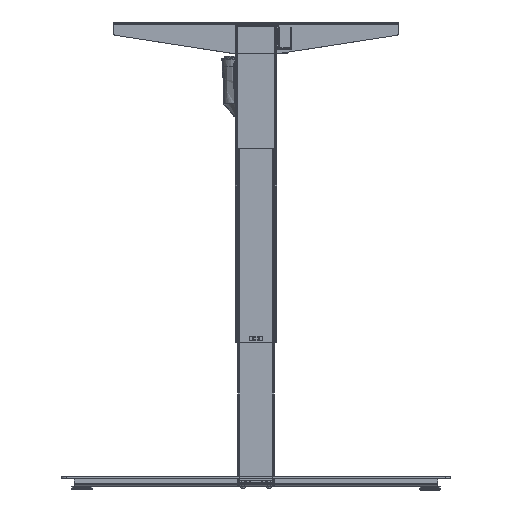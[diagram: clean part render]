
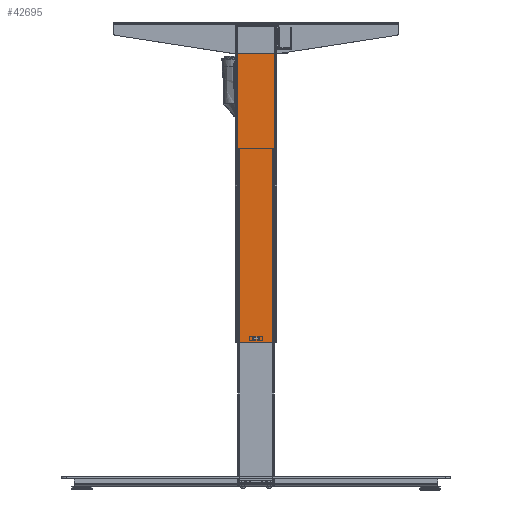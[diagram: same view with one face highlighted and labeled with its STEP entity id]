
A CAD part, left-side view. The second image highlights one B-rep face of the part: STEP entity #42695.
In plain terms, the highlighted planar face has unit normal (-1, 0, 0).
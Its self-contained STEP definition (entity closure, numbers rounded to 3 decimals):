
#937 = CARTESIAN_POINT ( 'NONE',  ( -29.5, 39.5, 609. ) ) ;
#1430 = DIRECTION ( 'NONE',  ( 0., 0., -1. ) ) ;
#1640 = CARTESIAN_POINT ( 'NONE',  ( -29.5, -6., 6. ) ) ;
#3889 = LINE ( 'NONE', #94096, #40638 ) ;
#4625 = VECTOR ( 'NONE', #77889, 1000. ) ;
#7718 = VECTOR ( 'NONE', #81805, 1000. ) ;
#10520 = ORIENTED_EDGE ( 'NONE', *, *, #52979, .T. ) ;
#12516 = LINE ( 'NONE', #91631, #58012 ) ;
#14407 = CARTESIAN_POINT ( 'NONE',  ( -29.5, 6., 6. ) ) ;
#17279 = ORIENTED_EDGE ( 'NONE', *, *, #105073, .F. ) ;
#22148 = DIRECTION ( 'NONE',  ( 1., 0., 0. ) ) ;
#23715 = DIRECTION ( 'NONE',  ( 0., -1., 0. ) ) ;
#24324 = DIRECTION ( 'NONE',  ( 0., 1., 0. ) ) ;
#24551 = EDGE_LOOP ( 'NONE', ( #140598, #17279, #121235, #96193 ) ) ;
#27216 = LINE ( 'NONE', #138922, #67656 ) ;
#27224 = VERTEX_POINT ( 'NONE', #40262 ) ;
#27468 = EDGE_LOOP ( 'NONE', ( #33400, #116664, #10520, #41136 ) ) ;
#33253 = FACE_OUTER_BOUND ( 'NONE', #24551, .T. ) ;
#33400 = ORIENTED_EDGE ( 'NONE', *, *, #107386, .T. ) ;
#34725 = VERTEX_POINT ( 'NONE', #56581 ) ;
#38834 = DIRECTION ( 'NONE',  ( 0., 0., 1. ) ) ;
#40262 = CARTESIAN_POINT ( 'NONE',  ( -29.5, 36.5, 0. ) ) ;
#40638 = VECTOR ( 'NONE', #128884, 1000. ) ;
#41136 = ORIENTED_EDGE ( 'NONE', *, *, #137711, .T. ) ;
#42695 = ADVANCED_FACE ( 'NONE', ( #45808, #33253 ), #46525, .F. ) ;
#45012 = EDGE_CURVE ( 'NONE', #58285, #34725, #45140, .T. ) ;
#45140 = LINE ( 'NONE', #48033, #133646 ) ;
#45808 = FACE_BOUND ( 'NONE', #27468, .T. ) ;
#46525 = PLANE ( 'NONE',  #97726 ) ;
#47499 = EDGE_CURVE ( 'NONE', #27224, #34725, #12516, .T. ) ;
#47757 = LINE ( 'NONE', #105404, #125200 ) ;
#47828 = LINE ( 'NONE', #57458, #7718 ) ;
#48033 = CARTESIAN_POINT ( 'NONE',  ( -29.5, -36.5, 614. ) ) ;
#52979 = EDGE_CURVE ( 'NONE', #115444, #76541, #3889, .T. ) ;
#53411 = EDGE_CURVE ( 'NONE', #102645, #115444, #94666, .T. ) ;
#56442 = LINE ( 'NONE', #937, #4625 ) ;
#56581 = CARTESIAN_POINT ( 'NONE',  ( -29.5, -36.5, 0. ) ) ;
#57458 = CARTESIAN_POINT ( 'NONE',  ( -29.5, 36.5, 614. ) ) ;
#58012 = VECTOR ( 'NONE', #78354, 1000. ) ;
#58285 = VERTEX_POINT ( 'NONE', #104319 ) ;
#67656 = VECTOR ( 'NONE', #100356, 1000. ) ;
#76541 = VERTEX_POINT ( 'NONE', #1640 ) ;
#77124 = EDGE_CURVE ( 'NONE', #126556, #27224, #47828, .T. ) ;
#77889 = DIRECTION ( 'NONE',  ( 0., -1., 0. ) ) ;
#78354 = DIRECTION ( 'NONE',  ( 0., -1., 0. ) ) ;
#81192 = CARTESIAN_POINT ( 'NONE',  ( -29.5, -6., 10. ) ) ;
#81805 = DIRECTION ( 'NONE',  ( 0., 0., -1. ) ) ;
#82106 = CARTESIAN_POINT ( 'NONE',  ( -29.5, 6., 10. ) ) ;
#91626 = CARTESIAN_POINT ( 'NONE',  ( -29.5, 36.5, 614. ) ) ;
#91631 = CARTESIAN_POINT ( 'NONE',  ( -29.5, 36.5, 0. ) ) ;
#94096 = CARTESIAN_POINT ( 'NONE',  ( -29.5, -6., 10. ) ) ;
#94666 = LINE ( 'NONE', #82106, #116338 ) ;
#96193 = ORIENTED_EDGE ( 'NONE', *, *, #47499, .T. ) ;
#97726 = AXIS2_PLACEMENT_3D ( 'NONE', #91626, #22148, #24324 ) ;
#99194 = CARTESIAN_POINT ( 'NONE',  ( -29.5, 36.5, 609. ) ) ;
#100356 = DIRECTION ( 'NONE',  ( 0., 1., 0. ) ) ;
#102645 = VERTEX_POINT ( 'NONE', #103807 ) ;
#103807 = CARTESIAN_POINT ( 'NONE',  ( -29.5, 6., 10. ) ) ;
#104319 = CARTESIAN_POINT ( 'NONE',  ( -29.5, -36.5, 609. ) ) ;
#104803 = VERTEX_POINT ( 'NONE', #14407 ) ;
#105073 = EDGE_CURVE ( 'NONE', #126556, #58285, #56442, .T. ) ;
#105404 = CARTESIAN_POINT ( 'NONE',  ( -29.5, 6., 10. ) ) ;
#107386 = EDGE_CURVE ( 'NONE', #104803, #102645, #47757, .T. ) ;
#115444 = VERTEX_POINT ( 'NONE', #81192 ) ;
#116338 = VECTOR ( 'NONE', #23715, 1000. ) ;
#116664 = ORIENTED_EDGE ( 'NONE', *, *, #53411, .T. ) ;
#121235 = ORIENTED_EDGE ( 'NONE', *, *, #77124, .T. ) ;
#125200 = VECTOR ( 'NONE', #38834, 1000. ) ;
#126556 = VERTEX_POINT ( 'NONE', #99194 ) ;
#128884 = DIRECTION ( 'NONE',  ( 0., 0., -1. ) ) ;
#133646 = VECTOR ( 'NONE', #1430, 1000. ) ;
#137711 = EDGE_CURVE ( 'NONE', #76541, #104803, #27216, .T. ) ;
#138922 = CARTESIAN_POINT ( 'NONE',  ( -29.5, 6., 6. ) ) ;
#140598 = ORIENTED_EDGE ( 'NONE', *, *, #45012, .F. ) ;
